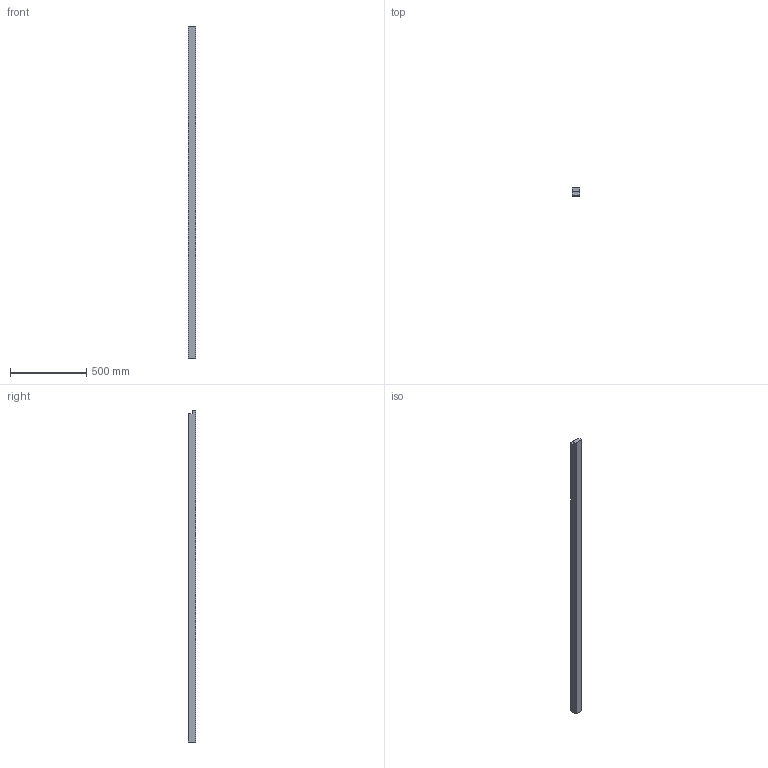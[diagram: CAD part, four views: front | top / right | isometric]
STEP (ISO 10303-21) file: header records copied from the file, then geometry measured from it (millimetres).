
FILE_DESCRIPTION(('Open CASCADE Model'),'2;1');
FILE_NAME('Open CASCADE Shape Model','2026-03-30T20:16:05',('Author'),( 'Open CASCADE'),'Open CASCADE STEP processor 7.8','Open CASCADE 7.8' ,'Unknown');
FILE_SCHEMA(('AUTOMOTIVE_DESIGN { 1 0 10303 214 1 1 1 1 }'));
Length unit declared in the file: millimetre
Products named in the file (1): Open CASCADE STEP translator 7.8 1
Bounding box: 50 x 50 x 2175 mm (x, y, z)
Volume: 5406250 mm3; surface area: 438750 mm2
Topology: 1 solids, 1 shells, 8 faces, 18 edges, 12 vertices
Faces by surface type: plane 8
Entity records: 466 total; most frequent: CARTESIAN_POINT 75, DIRECTION 72, LINE 54, VECTOR 54, ORIENTED_EDGE 36, PCURVE 36, DEFINITIONAL_REPRESENTATION 36, EDGE_CURVE 18
